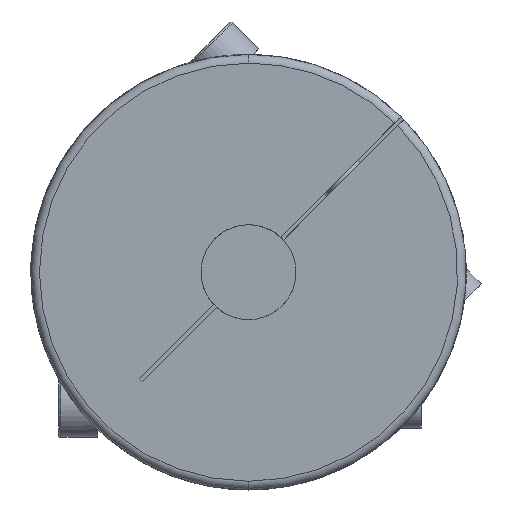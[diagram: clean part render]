
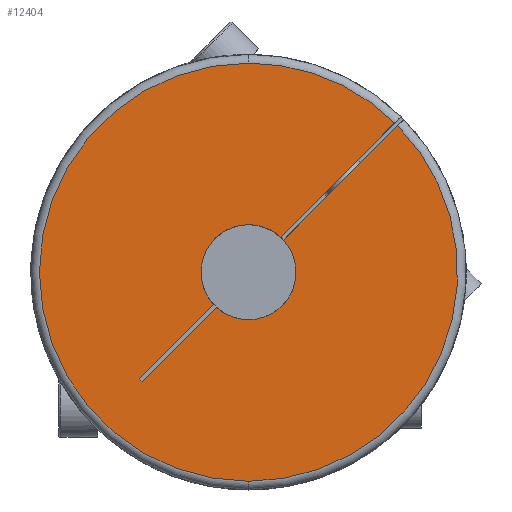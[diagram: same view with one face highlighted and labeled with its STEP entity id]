
A CAD part, left-side view. The second image highlights one B-rep face of the part: STEP entity #12404.
In plain terms, the highlighted planar face has unit normal (-1, 0, 0).
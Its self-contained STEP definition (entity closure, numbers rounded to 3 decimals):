
#388 = VECTOR ( 'NONE', #11006, 1000. ) ;
#438 = CIRCLE ( 'NONE', #8376, 26.4 ) ;
#567 = DIRECTION ( 'NONE',  ( 0., -0.707, -0.707 ) ) ;
#750 = VERTEX_POINT ( 'NONE', #11048 ) ;
#755 = CARTESIAN_POINT ( 'NONE',  ( -39., -25.102, 25.456 ) ) ;
#854 = AXIS2_PLACEMENT_3D ( 'NONE', #4315, #11433, #5356 ) ;
#977 = DIRECTION ( 'NONE',  ( -1., 0., 0. ) ) ;
#1465 = CIRCLE ( 'NONE', #12355, 26.4 ) ;
#1583 = ORIENTED_EDGE ( 'NONE', *, *, #1817, .F. ) ;
#1809 = ORIENTED_EDGE ( 'NONE', *, *, #3746, .F. ) ;
#1817 = EDGE_CURVE ( 'NONE', #5189, #5166, #8819, .T. ) ;
#1840 = LINE ( 'NONE', #755, #12272 ) ;
#2109 = ORIENTED_EDGE ( 'NONE', *, *, #4586, .F. ) ;
#2204 = CARTESIAN_POINT ( 'NONE',  ( -39., -25.102, 25.456 ) ) ;
#2375 = CARTESIAN_POINT ( 'NONE',  ( -39., 13.789, -13.435 ) ) ;
#2509 = ORIENTED_EDGE ( 'NONE', *, *, #10590, .F. ) ;
#2749 = ORIENTED_EDGE ( 'NONE', *, *, #8362, .T. ) ;
#2907 = FACE_OUTER_BOUND ( 'NONE', #10558, .T. ) ;
#2923 = CARTESIAN_POINT ( 'NONE',  ( -39., 0., -6. ) ) ;
#2966 = CIRCLE ( 'NONE', #11435, 6. ) ;
#2967 = CARTESIAN_POINT ( 'NONE',  ( -39., 0., -26.4 ) ) ;
#3042 = ORIENTED_EDGE ( 'NONE', *, *, #11098, .F. ) ;
#3082 = LINE ( 'NONE', #3906, #388 ) ;
#3222 = VERTEX_POINT ( 'NONE', #3596 ) ;
#3226 = DIRECTION ( 'NONE',  ( 1., 0., 0. ) ) ;
#3288 = AXIS2_PLACEMENT_3D ( 'NONE', #11825, #5743, #12842 ) ;
#3396 = CARTESIAN_POINT ( 'NONE',  ( -39., 13.435, -13.789 ) ) ;
#3489 = DIRECTION ( 'NONE',  ( -1., 0., 0. ) ) ;
#3511 = DIRECTION ( 'NONE',  ( -1., 0., 0. ) ) ;
#3596 = CARTESIAN_POINT ( 'NONE',  ( -39., 4.062, -4.416 ) ) ;
#3746 = EDGE_CURVE ( 'NONE', #11405, #9611, #3082, .T. ) ;
#3827 = DIRECTION ( 'NONE',  ( -1., 0., 0. ) ) ;
#3906 = CARTESIAN_POINT ( 'NONE',  ( -39., 13.435, -13.789 ) ) ;
#4233 = ORIENTED_EDGE ( 'NONE', *, *, #4696, .F. ) ;
#4268 = LINE ( 'NONE', #2204, #6654 ) ;
#4315 = CARTESIAN_POINT ( 'NONE',  ( -39., 0., 0. ) ) ;
#4323 = ORIENTED_EDGE ( 'NONE', *, *, #9634, .F. ) ;
#4586 = EDGE_CURVE ( 'NONE', #3222, #6443, #6601, .T. ) ;
#4645 = CARTESIAN_POINT ( 'NONE',  ( -39., 4.416, -4.062 ) ) ;
#4696 = EDGE_CURVE ( 'NONE', #8333, #750, #2966, .T. ) ;
#4942 = AXIS2_PLACEMENT_3D ( 'NONE', #9563, #3511, #10616 ) ;
#5166 = VERTEX_POINT ( 'NONE', #3396 ) ;
#5189 = VERTEX_POINT ( 'NONE', #2375 ) ;
#5203 = CARTESIAN_POINT ( 'NONE',  ( -39., 27.5, 0. ) ) ;
#5231 = CARTESIAN_POINT ( 'NONE',  ( -39., 0., 26.4 ) ) ;
#5325 = VERTEX_POINT ( 'NONE', #4645 ) ;
#5356 = DIRECTION ( 'NONE',  ( 0., 0., 1. ) ) ;
#5538 = CARTESIAN_POINT ( 'NONE',  ( -39., -4.062, 4.416 ) ) ;
#5580 = CIRCLE ( 'NONE', #4942, 26.4 ) ;
#5588 = CARTESIAN_POINT ( 'NONE',  ( -39., 13.789, -13.435 ) ) ;
#5633 = CARTESIAN_POINT ( 'NONE',  ( -39., 0., 0. ) ) ;
#5743 = DIRECTION ( 'NONE',  ( -1., 0., 0. ) ) ;
#5761 = VECTOR ( 'NONE', #8373, 1000. ) ;
#5805 = VECTOR ( 'NONE', #567, 1000. ) ;
#6218 = CARTESIAN_POINT ( 'NONE',  ( -39., -18.49, 18.844 ) ) ;
#6235 = AXIS2_PLACEMENT_3D ( 'NONE', #5203, #3226, #10311 ) ;
#6335 = CARTESIAN_POINT ( 'NONE',  ( -39., 13.435, -13.789 ) ) ;
#6443 = VERTEX_POINT ( 'NONE', #2923 ) ;
#6601 = CIRCLE ( 'NONE', #3288, 6. ) ;
#6650 = DIRECTION ( 'NONE',  ( 0., 0., -1. ) ) ;
#6654 = VECTOR ( 'NONE', #10263, 1000. ) ;
#7021 = CARTESIAN_POINT ( 'NONE',  ( -39., 0., 0. ) ) ;
#7258 = EDGE_CURVE ( 'NONE', #8138, #11100, #1465, .T. ) ;
#7481 = ORIENTED_EDGE ( 'NONE', *, *, #8924, .F. ) ;
#7540 = ORIENTED_EDGE ( 'NONE', *, *, #13010, .T. ) ;
#7681 = ORIENTED_EDGE ( 'NONE', *, *, #10038, .F. ) ;
#8021 = VERTEX_POINT ( 'NONE', #2967 ) ;
#8058 = DIRECTION ( 'NONE',  ( 0., 0., 1. ) ) ;
#8138 = VERTEX_POINT ( 'NONE', #6218 ) ;
#8333 = VERTEX_POINT ( 'NONE', #5538 ) ;
#8362 = EDGE_CURVE ( 'NONE', #11100, #8021, #438, .T. ) ;
#8373 = DIRECTION ( 'NONE',  ( 0., -0.707, 0.707 ) ) ;
#8376 = AXIS2_PLACEMENT_3D ( 'NONE', #5633, #12727, #6650 ) ;
#8459 = LINE ( 'NONE', #6335, #5761 ) ;
#8819 = LINE ( 'NONE', #5588, #5805 ) ;
#8924 = EDGE_CURVE ( 'NONE', #750, #5325, #11518, .T. ) ;
#9282 = PLANE ( 'NONE',  #6235 ) ;
#9538 = CARTESIAN_POINT ( 'NONE',  ( -39., 0., 0. ) ) ;
#9563 = CARTESIAN_POINT ( 'NONE',  ( -39., 0., 0. ) ) ;
#9611 = VERTEX_POINT ( 'NONE', #9799 ) ;
#9634 = EDGE_CURVE ( 'NONE', #8138, #8333, #1840, .T. ) ;
#9656 = CARTESIAN_POINT ( 'NONE',  ( -39., -4.416, 4.062 ) ) ;
#9799 = CARTESIAN_POINT ( 'NONE',  ( -39., -18.844, 18.49 ) ) ;
#9838 = DIRECTION ( 'NONE',  ( 0., 0.707, -0.707 ) ) ;
#9902 = CARTESIAN_POINT ( 'NONE',  ( -39., 0., 0. ) ) ;
#10038 = EDGE_CURVE ( 'NONE', #5166, #3222, #8459, .T. ) ;
#10263 = DIRECTION ( 'NONE',  ( 0., 0.707, -0.707 ) ) ;
#10311 = DIRECTION ( 'NONE',  ( 0., 0., -1. ) ) ;
#10558 = EDGE_LOOP ( 'NONE', ( #4233, #4323, #11929, #2749, #7540, #1809, #2509, #2109, #7681, #1583, #3042, #7481 ) ) ;
#10587 = DIRECTION ( 'NONE',  ( 0., 0., 1. ) ) ;
#10590 = EDGE_CURVE ( 'NONE', #6443, #11405, #12383, .T. ) ;
#10616 = DIRECTION ( 'NONE',  ( 0., 0., -1. ) ) ;
#10937 = DIRECTION ( 'NONE',  ( 0., 0., -1. ) ) ;
#11006 = DIRECTION ( 'NONE',  ( 0., -0.707, 0.707 ) ) ;
#11048 = CARTESIAN_POINT ( 'NONE',  ( -39., 0., 6. ) ) ;
#11098 = EDGE_CURVE ( 'NONE', #5325, #5189, #4268, .T. ) ;
#11100 = VERTEX_POINT ( 'NONE', #5231 ) ;
#11405 = VERTEX_POINT ( 'NONE', #9656 ) ;
#11433 = DIRECTION ( 'NONE',  ( -1., 0., 0. ) ) ;
#11435 = AXIS2_PLACEMENT_3D ( 'NONE', #7021, #977, #8058 ) ;
#11518 = CIRCLE ( 'NONE', #854, 6. ) ;
#11825 = CARTESIAN_POINT ( 'NONE',  ( -39., 0., 0. ) ) ;
#11929 = ORIENTED_EDGE ( 'NONE', *, *, #7258, .T. ) ;
#12272 = VECTOR ( 'NONE', #9838, 1000. ) ;
#12355 = AXIS2_PLACEMENT_3D ( 'NONE', #9902, #3827, #10937 ) ;
#12383 = CIRCLE ( 'NONE', #13020, 6. ) ;
#12404 = ADVANCED_FACE ( 'NONE', ( #2907 ), #9282, .F. ) ;
#12727 = DIRECTION ( 'NONE',  ( -1., 0., 0. ) ) ;
#12842 = DIRECTION ( 'NONE',  ( 0., 0., 1. ) ) ;
#13010 = EDGE_CURVE ( 'NONE', #8021, #9611, #5580, .T. ) ;
#13020 = AXIS2_PLACEMENT_3D ( 'NONE', #9538, #3489, #10587 ) ;
